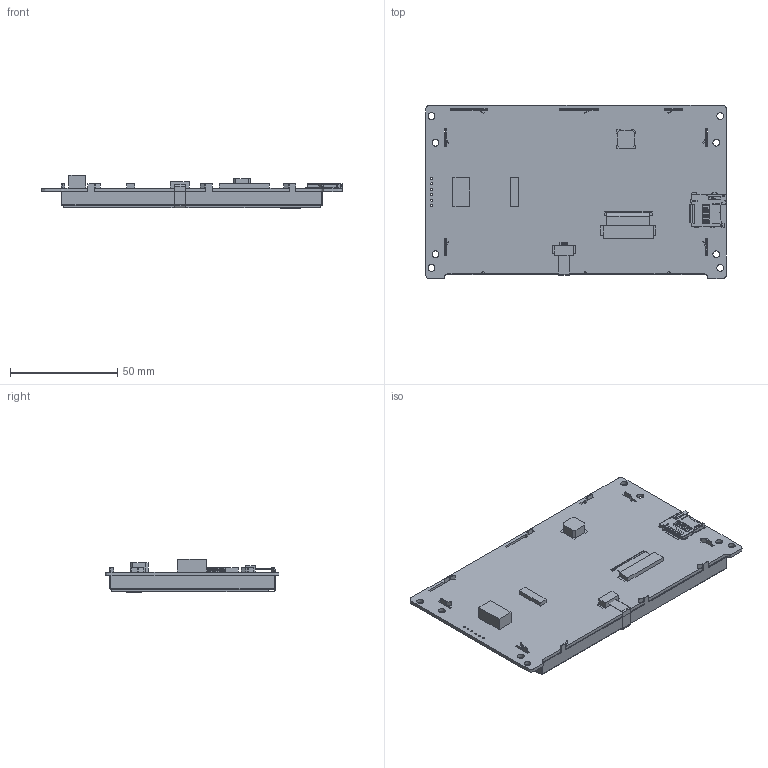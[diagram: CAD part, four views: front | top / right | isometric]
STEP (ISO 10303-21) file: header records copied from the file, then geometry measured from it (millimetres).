
FILE_DESCRIPTION(/* description */ (''),/* implementation_level */ '2;1');
FILE_NAME(/* name */ '',/* time_stamp */ '2023-11-20T18:55:52+08:00',/* author */ (''),/* organization */ (''),/* preprocessor_version */ 'ST-DEVELOPER v11',/* originating_system */ 'SIEMENS PLM Software NX 7.5',/* authorisation */ '');
FILE_SCHEMA (('AP203_CONFIGURATION_CONTROLLED_3D_DESIGN_OF_MECHANICAL_PARTS_AND_ASSEMBLIES_MIM_LF'));
Length unit declared in the file: millimetre
Products named in the file (1): SDWb050T84AT_stp
Bounding box: 140 x 80.9 x 15.6 mm (x, y, z)
Volume: 30478.9 mm3; surface area: 56389.2 mm2
Topology: 17 solids, 17 shells, 1263 faces, 3583 edges, 2330 vertices
Faces by surface type: plane 971, cylinder 290, cone 1, extrusion 1
Full cylindrical faces by diameter (mm): 0.889 x6, 3.2 x8
Entity records: 41909 total; most frequent: CARTESIAN_POINT 7510, ORIENTED_EDGE 7136, DIRECTION 6611, EDGE_CURVE 3568, VECTOR 2913, LINE 2912, VERTEX_POINT 2330, AXIS2_PLACEMENT_3D 1849
